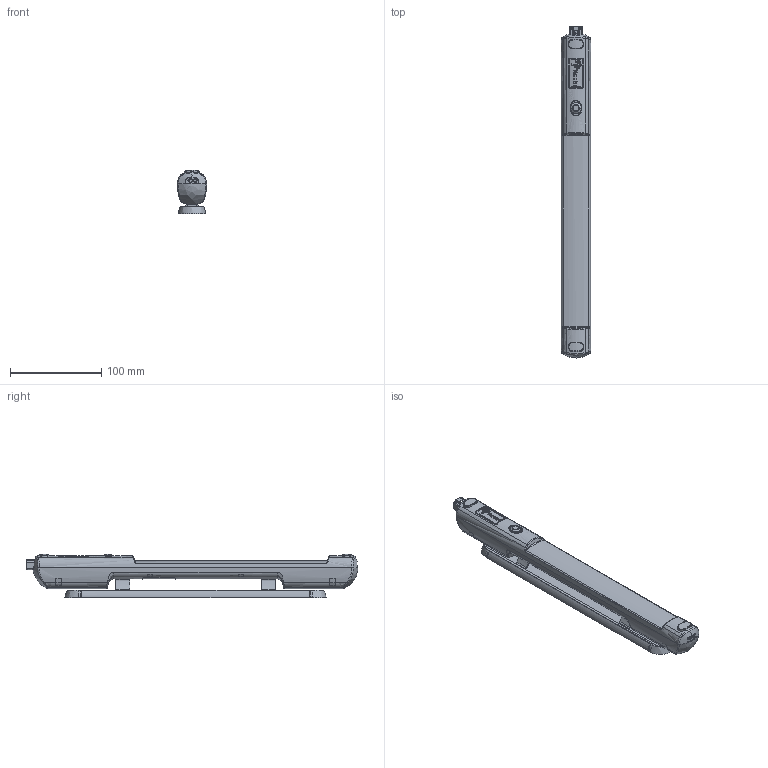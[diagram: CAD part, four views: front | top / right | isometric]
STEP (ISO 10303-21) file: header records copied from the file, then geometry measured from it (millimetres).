
FILE_DESCRIPTION(/* description */ (''),/* implementation_level */ '2;1');
FILE_NAME(/* name */ 'FLL-(D~3',/* time_stamp */ '2023-01-23T09:42:40+01:00',/* author */ (''),/* organization */ (''),/* preprocessor_version */ 'ST-DEVELOPER v14',/* originating_system */ '',/* authorisation */ '');
FILE_SCHEMA (('AUTOMOTIVE_DESIGN'));
Length unit declared in the file: millimetre
Products named in the file (1): Document
Bounding box: 32 x 363.65 x 48.11 mm (x, y, z)
Volume: 63344.2 mm3; surface area: 61481 mm2
Topology: 1 solids, 2 shells, 709 faces, 1874 edges, 1181 vertices
Faces by surface type: bspline 493, plane 216
Entity records: 44351 total; most frequent: CARTESIAN_POINT 33284, ORIENTED_EDGE 3682, EDGE_CURVE 1849, B_SPLINE_CURVE_WITH_KNOTS 1282, VERTEX_POINT 1181, EDGE_LOOP 757, ADVANCED_FACE 709, FACE_OUTER_BOUND 709
